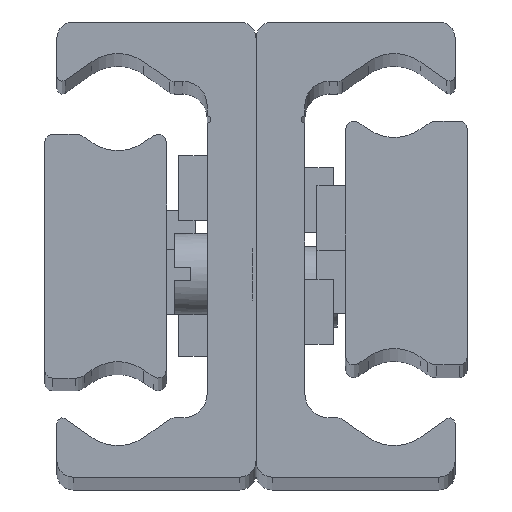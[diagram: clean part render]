
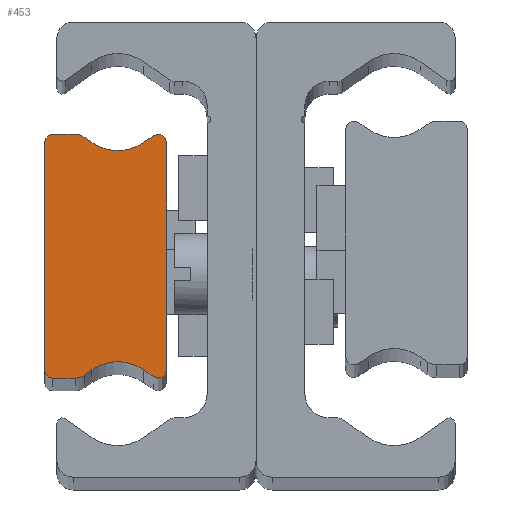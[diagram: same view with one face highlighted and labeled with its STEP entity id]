
A CAD part, top view. The second image highlights one B-rep face of the part: STEP entity #453.
In plain terms, the highlighted planar face has unit normal (0, 0, 1) as drawn and (0, 0, -1) by its records, which use the part's own axes.
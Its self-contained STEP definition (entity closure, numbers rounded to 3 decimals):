
#453 = ADVANCED_FACE( '', ( #944 ), #945, .F. );
#944 = FACE_OUTER_BOUND( '', #1446, .T. );
#945 = PLANE( '', #1447 );
#1446 = EDGE_LOOP( '', ( #2469, #2470, #2471, #2472, #2473, #2474, #2475, #2476, #2477, #2478, #2479, #2480, #2481, #2482, #2483, #2484 ) );
#1447 = AXIS2_PLACEMENT_3D( '', #2485, #2486, #2487 );
#2469 = ORIENTED_EDGE( '', *, *, #2808, .F. );
#2470 = ORIENTED_EDGE( '', *, *, #2899, .F. );
#2471 = ORIENTED_EDGE( '', *, *, #2852, .F. );
#2472 = ORIENTED_EDGE( '', *, *, #2825, .F. );
#2473 = ORIENTED_EDGE( '', *, *, #3130, .F. );
#2474 = ORIENTED_EDGE( '', *, *, #3131, .T. );
#2475 = ORIENTED_EDGE( '', *, *, #3086, .F. );
#2476 = ORIENTED_EDGE( '', *, *, #3124, .F. );
#2477 = ORIENTED_EDGE( '', *, *, #3100, .F. );
#2478 = ORIENTED_EDGE( '', *, *, #3128, .F. );
#2479 = ORIENTED_EDGE( '', *, *, #2741, .F. );
#2480 = ORIENTED_EDGE( '', *, *, #3132, .T. );
#2481 = ORIENTED_EDGE( '', *, *, #2762, .F. );
#2482 = ORIENTED_EDGE( '', *, *, #3037, .F. );
#2483 = ORIENTED_EDGE( '', *, *, #2937, .F. );
#2484 = ORIENTED_EDGE( '', *, *, #2903, .F. );
#2485 = CARTESIAN_POINT( '', ( 0.5, -7., -450. ) );
#2486 = DIRECTION( '', ( 0., 0., 1. ) );
#2487 = DIRECTION( '', ( 1., 0., 0. ) );
#2741 = EDGE_CURVE( '', #3204, #3206, #3207, .T. );
#2762 = EDGE_CURVE( '', #3241, #3243, #3244, .T. );
#2808 = EDGE_CURVE( '', #3322, #3324, #3325, .T. );
#2825 = EDGE_CURVE( '', #3353, #3355, #3356, .T. );
#2852 = EDGE_CURVE( '', #3355, #3397, #3398, .T. );
#2899 = EDGE_CURVE( '', #3397, #3322, #3471, .T. );
#2903 = EDGE_CURVE( '', #3324, #3476, #3477, .T. );
#2937 = EDGE_CURVE( '', #3476, #3528, #3529, .T. );
#3037 = EDGE_CURVE( '', #3528, #3241, #3680, .T. );
#3086 = EDGE_CURVE( '', #3742, #3744, #3745, .T. );
#3100 = EDGE_CURVE( '', #3762, #3764, #3765, .T. );
#3124 = EDGE_CURVE( '', #3764, #3742, #3793, .T. );
#3128 = EDGE_CURVE( '', #3206, #3762, #3797, .T. );
#3130 = EDGE_CURVE( '', #3799, #3353, #3800, .T. );
#3131 = EDGE_CURVE( '', #3799, #3744, #3801, .T. );
#3132 = EDGE_CURVE( '', #3204, #3243, #3802, .T. );
#3204 = VERTEX_POINT( '', #3886 );
#3206 = VERTEX_POINT( '', #3889 );
#3207 = LINE( '', #3890, #3891 );
#3241 = VERTEX_POINT( '', #3933 );
#3243 = VERTEX_POINT( '', #3936 );
#3244 = LINE( '', #3937, #3938 );
#3322 = VERTEX_POINT( '', #4038 );
#3324 = VERTEX_POINT( '', #4041 );
#3325 = LINE( '', #4042, #4043 );
#3353 = VERTEX_POINT( '', #4083 );
#3355 = VERTEX_POINT( '', #4086 );
#3356 = CIRCLE( '', #4087, 1. );
#3397 = VERTEX_POINT( '', #4144 );
#3398 = LINE( '', #4145, #4146 );
#3471 = CIRCLE( '', #4241, 0.5 );
#3476 = VERTEX_POINT( '', #4246 );
#3477 = CIRCLE( '', #4247, 0.5 );
#3528 = VERTEX_POINT( '', #4316 );
#3529 = LINE( '', #4317, #4318 );
#3680 = CIRCLE( '', #4511, 1. );
#3742 = VERTEX_POINT( '', #4585 );
#3744 = VERTEX_POINT( '', #4588 );
#3745 = LINE( '', #4589, #4590 );
#3762 = VERTEX_POINT( '', #4611 );
#3764 = VERTEX_POINT( '', #4614 );
#3765 = LINE( '', #4615, #4616 );
#3793 = CIRCLE( '', #4656, 0.523 );
#3797 = CIRCLE( '', #4661, 0.523 );
#3799 = VERTEX_POINT( '', #4663 );
#3800 = LINE( '', #4664, #4665 );
#3801 = CIRCLE( '', #4666, 2.778 );
#3802 = CIRCLE( '', #4667, 2.778 );
#3886 = CARTESIAN_POINT( '', ( 6.093, -6.997, -450. ) );
#3889 = CARTESIAN_POINT( '', ( 6.677, -7.405, -450. ) );
#3890 = CARTESIAN_POINT( '', ( 6.093, -6.997, -450. ) );
#3891 = VECTOR( '', #4739, 1000. );
#3933 = CARTESIAN_POINT( '', ( 2.446, -7.319, -450. ) );
#3936 = CARTESIAN_POINT( '', ( 2.907, -6.997, -450. ) );
#3937 = CARTESIAN_POINT( '', ( 2.446, -7.319, -450. ) );
#3938 = VECTOR( '', #4767, 1000. );
#4038 = CARTESIAN_POINT( '', ( 0., 7., -450. ) );
#4041 = CARTESIAN_POINT( '', ( 0., -7., -450. ) );
#4042 = CARTESIAN_POINT( '', ( 0., 7., -450. ) );
#4043 = VECTOR( '', #4830, 1000. );
#4083 = CARTESIAN_POINT( '', ( 2.446, 7.319, -450. ) );
#4086 = CARTESIAN_POINT( '', ( 1.873, 7.5, -450. ) );
#4087 = AXIS2_PLACEMENT_3D( '', #4847, #4848, #4849 );
#4144 = CARTESIAN_POINT( '', ( 0.5, 7.5, -450. ) );
#4145 = CARTESIAN_POINT( '', ( 1.873, 7.5, -450. ) );
#4146 = VECTOR( '', #4875, 1000. );
#4241 = AXIS2_PLACEMENT_3D( '', #4931, #4932, #4933 );
#4246 = CARTESIAN_POINT( '', ( 0.5, -7.5, -450. ) );
#4247 = AXIS2_PLACEMENT_3D( '', #4937, #4938, #4939 );
#4316 = CARTESIAN_POINT( '', ( 1.873, -7.5, -450. ) );
#4317 = CARTESIAN_POINT( '', ( 0.5, -7.5, -450. ) );
#4318 = VECTOR( '', #4973, 1000. );
#4511 = AXIS2_PLACEMENT_3D( '', #5112, #5113, #5114 );
#4585 = CARTESIAN_POINT( '', ( 6.677, 7.405, -450. ) );
#4588 = CARTESIAN_POINT( '', ( 6.093, 6.997, -450. ) );
#4589 = CARTESIAN_POINT( '', ( 6.677, 7.405, -450. ) );
#4590 = VECTOR( '', #5179, 1000. );
#4611 = CARTESIAN_POINT( '', ( 7.5, -6.977, -450. ) );
#4614 = CARTESIAN_POINT( '', ( 7.5, 6.977, -450. ) );
#4615 = CARTESIAN_POINT( '', ( 7.5, -6.977, -450. ) );
#4616 = VECTOR( '', #5197, 1000. );
#4656 = AXIS2_PLACEMENT_3D( '', #5213, #5214, #5215 );
#4661 = AXIS2_PLACEMENT_3D( '', #5217, #5218, #5219 );
#4663 = CARTESIAN_POINT( '', ( 2.907, 6.997, -450. ) );
#4664 = CARTESIAN_POINT( '', ( 2.907, 6.997, -450. ) );
#4665 = VECTOR( '', #5220, 1000. );
#4666 = AXIS2_PLACEMENT_3D( '', #5221, #5222, #5223 );
#4667 = AXIS2_PLACEMENT_3D( '', #5224, #5225, #5226 );
#4739 = DIRECTION( '', ( 0.819, -0.574, 0. ) );
#4767 = DIRECTION( '', ( 0.819, 0.574, 0. ) );
#4830 = DIRECTION( '', ( 0., -1., 0. ) );
#4847 = CARTESIAN_POINT( '', ( 1.873, 6.5, -450. ) );
#4848 = DIRECTION( '', ( 0., 0., 1. ) );
#4849 = DIRECTION( '', ( 1., 0., 0. ) );
#4875 = DIRECTION( '', ( -1., 0., 0. ) );
#4931 = CARTESIAN_POINT( '', ( 0.5, 7., -450. ) );
#4932 = DIRECTION( '', ( 0., 0., 1. ) );
#4933 = DIRECTION( '', ( 1., 0., 0. ) );
#4937 = CARTESIAN_POINT( '', ( 0.5, -7., -450. ) );
#4938 = DIRECTION( '', ( 0., 0., 1. ) );
#4939 = DIRECTION( '', ( 1., 0., 0. ) );
#4973 = DIRECTION( '', ( 1., 0., 0. ) );
#5112 = CARTESIAN_POINT( '', ( 1.873, -6.5, -450. ) );
#5113 = DIRECTION( '', ( 0., 0., 1. ) );
#5114 = DIRECTION( '', ( 1., 0., 0. ) );
#5179 = DIRECTION( '', ( -0.819, -0.574, 0. ) );
#5197 = DIRECTION( '', ( 0., 1., 0. ) );
#5213 = CARTESIAN_POINT( '', ( 6.977, 6.977, -450. ) );
#5214 = DIRECTION( '', ( 0., 0., 1. ) );
#5215 = DIRECTION( '', ( 1., 0., 0. ) );
#5217 = CARTESIAN_POINT( '', ( 6.977, -6.977, -450. ) );
#5218 = DIRECTION( '', ( 0., 0., 1. ) );
#5219 = DIRECTION( '', ( 1., 0., 0. ) );
#5220 = DIRECTION( '', ( -0.819, 0.574, 0. ) );
#5221 = CARTESIAN_POINT( '', ( 4.5, 9.272, -450. ) );
#5222 = DIRECTION( '', ( 0., 0., 1. ) );
#5223 = DIRECTION( '', ( 1., 0., 0. ) );
#5224 = CARTESIAN_POINT( '', ( 4.5, -9.272, -450. ) );
#5225 = DIRECTION( '', ( 0., 0., 1. ) );
#5226 = DIRECTION( '', ( 1., 0., 0. ) );
